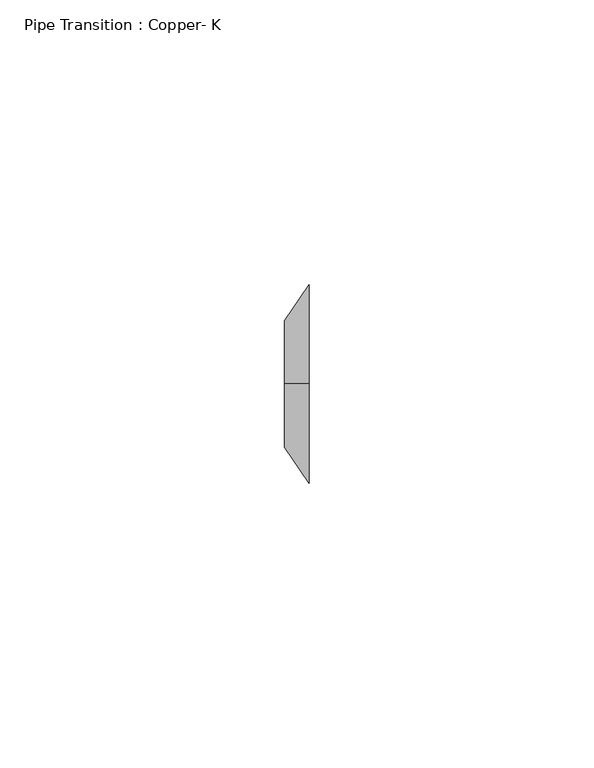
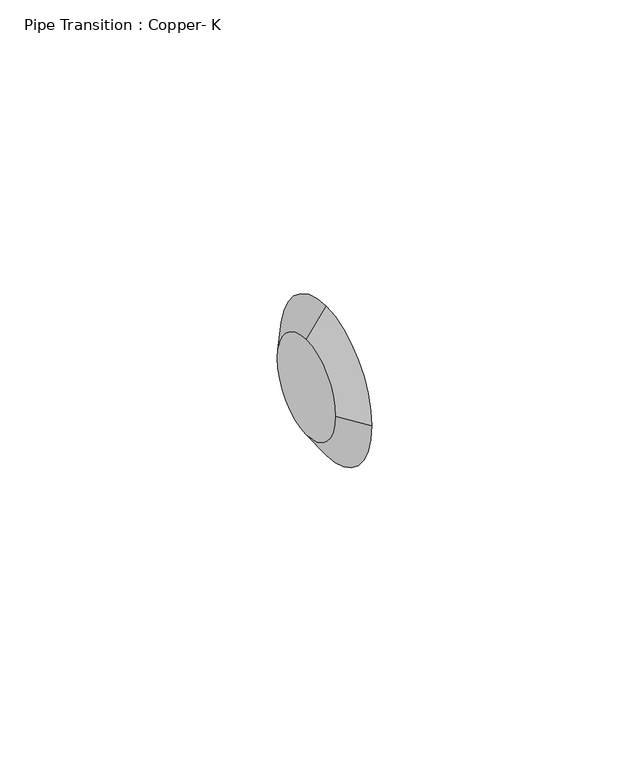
"""IFC4 building model written with IfcOpenShell, lengths in millimetres: pipe fitting geometry, Pipe Transition : Copper- K."""

from ifc_helpers import new_model, si_unit, frame, origin, place, context, project, spatial, polyline, circle_curve, source, transform, mapped, element, save
from ifc_brep_helpers import plane_surface, revolved_surface, advanced_brep


def pipe_transition_copper_k_a0e390c6(model_context):
    return source(origin(), model_context, "Body", "AdvancedBrep", [
        advanced_brep(
        [(4.365625, 0.0, 17.4625), (4.365625, -17.4625, 0.0), (4.365625, 0.0, -17.4625), (4.365625, 17.4625, 0.0), (0.0, 0.0, 11.1125), (0.0, 11.1125, 0.0), (0.0, 0.0, -11.1125), (0.0, -11.1125, 0.0)],
        [
            (0, 1, circle_curve(frame((4.365625, 0.0, 0.0), z_axis=(1.0, 0.0, 0.0), x_axis=(0.0, 0.0, 1.0)), 17.4625)),
            (1, 2, circle_curve(frame((4.365625, 0.0, 0.0), z_axis=(1.0, 0.0, 0.0), x_axis=(0.0, -1.0, 0.0)), 17.4625)),
            (2, 3, circle_curve(frame((4.365625, 0.0, 0.0), z_axis=(1.0, 0.0, 0.0), x_axis=(0.0, 0.0, -1.0)), 17.4625)),
            (3, 0, circle_curve(frame((4.365625, 0.0, 0.0), z_axis=(1.0, 0.0, 0.0), x_axis=(0.0, 1.0, 0.0)), 17.4625)),
            (4, 5, circle_curve(frame((0.0, 0.0, 0.0), z_axis=(-1.0, 0.0, 0.0), x_axis=(0.0, 1.0, 0.0)), 11.1125)),
            (5, 6, circle_curve(frame((0.0, 0.0, 0.0), z_axis=(-1.0, 0.0, 0.0), x_axis=(0.0, 0.0, -1.0)), 11.1125)),
            (6, 7, circle_curve(frame((0.0, 0.0, 0.0), z_axis=(-1.0, 0.0, 0.0), x_axis=(0.0, -1.0, 0.0)), 11.1125)),
            (7, 4, circle_curve(frame((0.0, 0.0, 0.0), z_axis=(-1.0, 0.0, 0.0), x_axis=(0.0, 0.0, 1.0)), 11.1125)),
            (7, 1),
            (0, 4),
            (6, 2),
            (5, 3),
        ],
        [
            plane_surface(frame((4.365625, 0.0, 0.0), z_axis=(1.0, 0.0, 0.0), x_axis=(0.0, -1.0, 0.0))),
            plane_surface(frame((0.0, 0.0, 0.0), z_axis=(-1.0, 0.0, 0.0), x_axis=(0.0, -1.0, 0.0))),
            revolved_surface(polyline([(0.0, -11.112499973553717, 0.0), (4.365625, -17.4625, 0.0)]), (-7.6398437, 0.0, 0.0), (1.0, 0.0, 0.0)),
            revolved_surface(polyline([(0.0, 0.0, -11.112499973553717), (4.365625, 0.0, -17.4625)]), (-7.6398437, 0.0, 0.0), (1.0, 0.0, 0.0)),
            revolved_surface(polyline([(0.0, 11.112499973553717, 0.0), (4.365625, 17.4625, 0.0)]), (-7.6398437, 0.0, 0.0), (1.0, 0.0, 0.0)),
            revolved_surface(polyline([(0.0, 0.0, 11.112499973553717), (4.365625, 0.0, 17.4625)]), (-7.6398437, 0.0, 0.0), (1.0, 0.0, 0.0)),
        ],
        [
            (0, [[1, 2, 3, 4]]),
            (1, [[5, 6, 7, 8]]),
            (2, [[-8, 9, -1, 10]]),
            (3, [[-7, 11, -2, -9]]),
            (4, [[-6, 12, -3, -11]]),
            (5, [[-5, -10, -4, -12]]),
        ],
    ),
        advanced_brep(
        [(4.365625, 0.0, 17.4625), (4.365625, -17.4625, 0.0), (4.365625, 0.0, -17.4625), (4.365625, 17.4625, 0.0), (0.0, 0.0, 11.1125), (0.0, 11.1125, 0.0), (0.0, 0.0, -11.1125), (0.0, -11.1125, 0.0)],
        [
            (0, 1, circle_curve(frame((4.365625, 0.0, 0.0), z_axis=(1.0, 0.0, -1.9150692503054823e-12), x_axis=(1.9150372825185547e-12, 0.0, 1.0)), 17.4625)),
            (1, 2, circle_curve(frame((4.365625, 0.0, 0.0), z_axis=(1.0, 0.0, -1.8375554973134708e-12), x_axis=(0.0, -1.0, 0.0)), 17.4625)),
            (2, 3, circle_curve(frame((4.365625, 0.0, 0.0), z_axis=(1.0, 0.0, -2.9852811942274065e-12), x_axis=(-2.9853240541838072e-12, 0.0, -1.0)), 17.4625)),
            (3, 0, circle_curve(frame((4.365625, 0.0, 0.0), z_axis=(1.0, 0.0, 0.0), x_axis=(0.0, 1.0, 0.0)), 17.4625)),
            (4, 5, circle_curve(frame((0.0, 0.0, 0.0), z_axis=(-1.0, 0.0, 0.0), x_axis=(0.0, 1.0, 0.0)), 11.1125)),
            (5, 6, circle_curve(frame((0.0, 0.0, 0.0), z_axis=(-1.0, 0.0, 2.9852811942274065e-12), x_axis=(-2.9853240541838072e-12, 0.0, -1.0)), 11.1125)),
            (6, 7, circle_curve(frame((0.0, 0.0, 0.0), z_axis=(-1.0, 0.0, 1.8375554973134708e-12), x_axis=(0.0, -1.0, 0.0)), 11.1125)),
            (7, 4, circle_curve(frame((0.0, 0.0, 0.0), z_axis=(-1.0, 0.0, 1.9150692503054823e-12), x_axis=(1.9150372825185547e-12, 0.0, 1.0)), 11.1125)),
            (7, 1),
            (0, 4),
            (6, 2),
            (5, 3),
        ],
        [
            plane_surface(frame((4.365625, 0.0, 0.0), z_axis=(1.0, 0.0, 0.0), x_axis=(0.0, -1.0, 0.0))),
            plane_surface(frame((0.0, 0.0, 0.0), z_axis=(-1.0, 0.0, 0.0), x_axis=(0.0, -1.0, 0.0))),
            revolved_surface(polyline([(-2.1280754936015e-11, -11.112499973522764, 0.0), (4.365625, -17.4625, 0.0)]), (-7.6398437, 0.0, 0.0), (1.0, 0.0, -1.9150692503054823e-12)),
            revolved_surface(polyline([(-2.042011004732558e-11, 0.0, -11.112499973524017), (4.365625, 0.0, -17.4625)]), (-7.6398437, 0.0, 0.0), (1.0, 0.0, -1.8375554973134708e-12)),
            revolved_surface(polyline([(0.0, 11.112499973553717, 0.0), (4.36562500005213, 17.462500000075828, 0.0)]), (-7.6398437, 0.0, 0.0), (1.0, 0.0, -2.9852811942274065e-12)),
            revolved_surface(polyline([(0.0, 0.0, 11.112499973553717), (4.365625, 0.0, 17.4625)]), (-7.6398437, 0.0, 0.0), (1.0, 0.0, 0.0)),
        ],
        [
            (0, [[1, 2, 3, 4]]),
            (1, [[5, 6, 7, 8]]),
            (2, [[-8, 9, -1, 10]]),
            (3, [[-7, 11, -2, -9]]),
            (4, [[-6, 12, -3, -11]]),
            (5, [[-5, -10, -4, -12]]),
        ],
    ),
    ])


if __name__ == "__main__":
    model = new_model("IFC4")
    model_context = context("Model", 3, world=origin())
    ifc_project = project(units=[si_unit("LENGTHUNIT", "METRE", prefix="MILLI")], contexts=[model_context])
    site = spatial("IfcSite", under=ifc_project)
    building = spatial("IfcBuilding", under=site)
    placement = place(None, origin())
    pipe_transition_copper_k_shape = pipe_transition_copper_k_a0e390c6(model_context)
    element("IfcPipeFitting", 1, ObjectType="Pipe Transition : Copper- K", at=placement, inside=building, context=model_context, shape_type="MappedRepresentation", body=[
        mapped(pipe_transition_copper_k_shape, transform((0.0, 0.0, 0.0), x_axis=(1.0, 0.0, 0.0), y_axis=(0.0, 1.0, 0.0), z_axis=(0.0, 0.0, 1.0))),
    ])
    save(model, "model.ifc")
